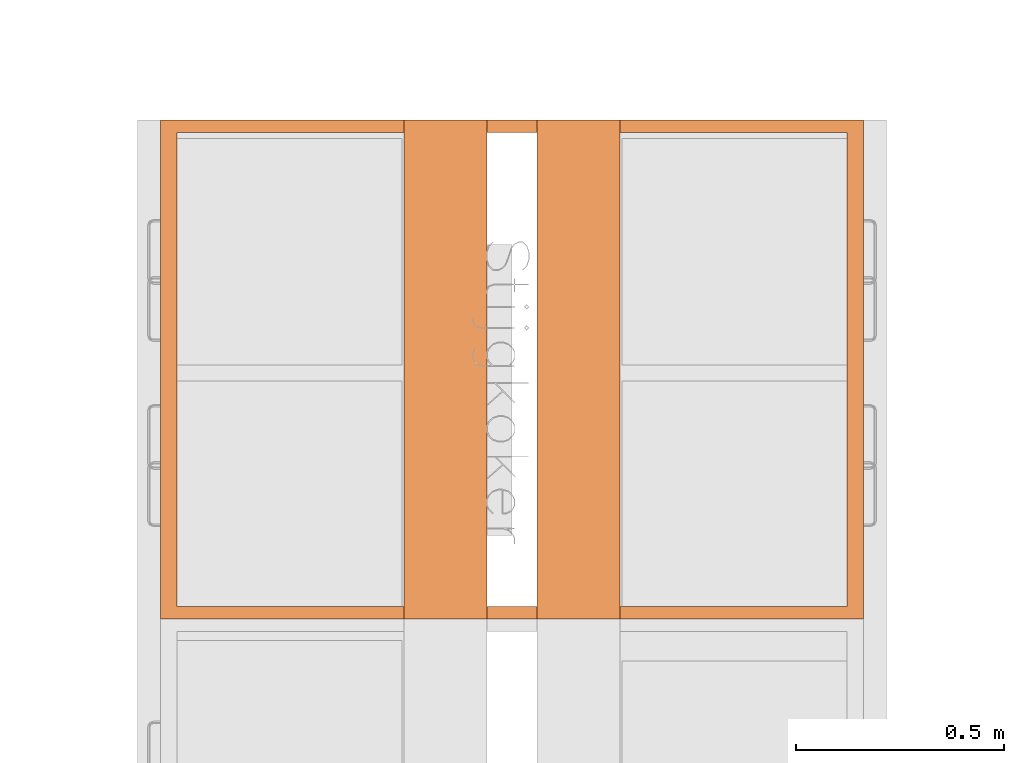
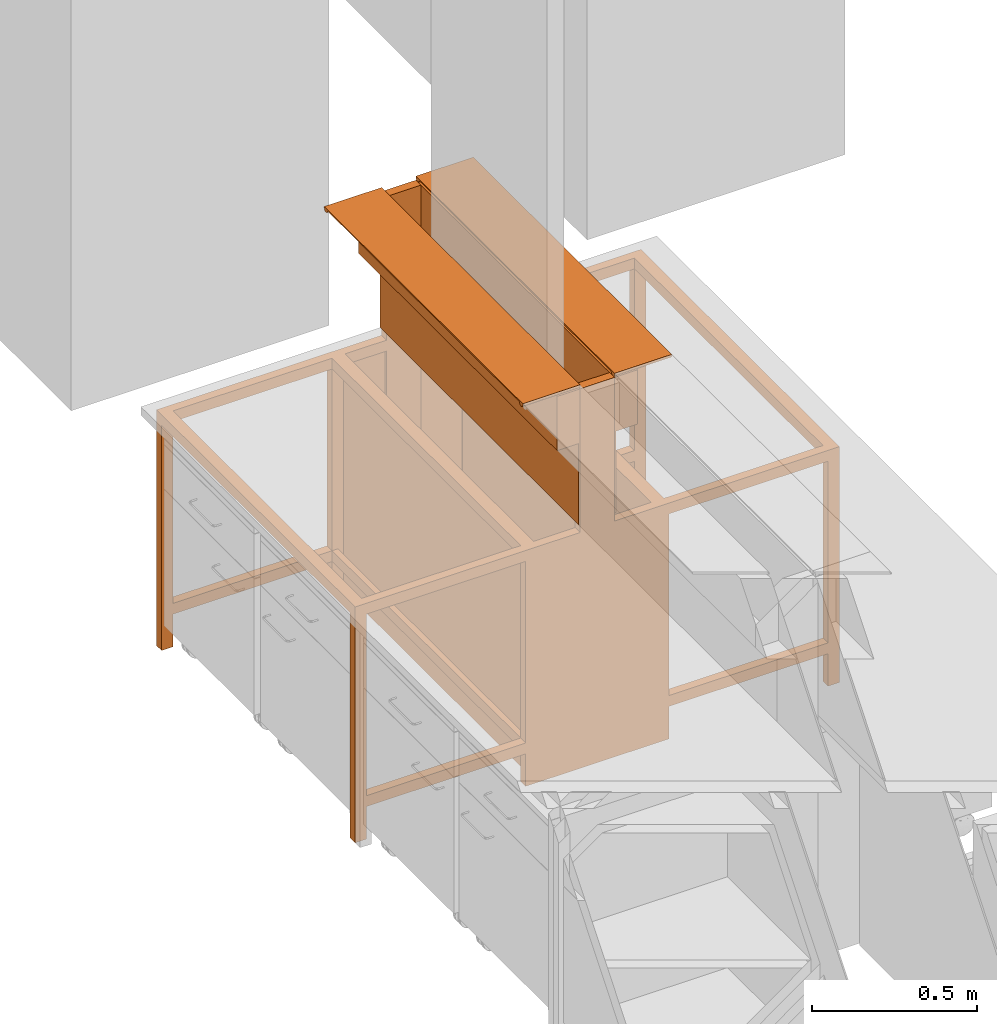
# One storey, part 20 of 43: 3 proxies.
"""IFC2X3 building model written with IfcOpenShell, lengths in metres."""

import ifcopenshell
import ifcopenshell.guid

model = None  # the IFC model being written
_history = None  # IfcOwnerHistory: only IFC2X3 demands one
_inside = {}  # id of a spatial element -> (the spatial element, [elements in it])
_under = {}  # id of a project, library or spatial element -> (it, [spatial elements below it])
_declared = {}  # id of a project -> (the project, [libraries it declares])
_typed = {}  # id of a type object -> (the type object, [elements of that type])
_made_of = {}  # id of a material, layer set ... -> (it, [elements and type objects made of it])


def new_model(schema):
    """Start an empty IFC model of exactly this schema.

    Asked for "IFC4X3", IfcOpenShell would pick the latest addendum, in which some entities
    have other attributes; the version numbers below select the first issue.
    IFC2X3 requires an IfcOwnerHistory on every rooted entity: one is made here for all.
    """
    global model, _history
    if schema == "IFC4X3":
        model = ifcopenshell.file(schema_version=(4, 3, 0, 0))
    else:
        model = ifcopenshell.file(schema=schema)
    _inside.clear()
    _under.clear()
    _declared.clear()
    _typed.clear()
    _made_of.clear()
    _history = None
    if model.schema == "IFC2X3":
        org = make("IfcOrganization", Name="unknown")
        user = make(
            "IfcPersonAndOrganization",
            ThePerson=make("IfcPerson", FamilyName="unknown"),
            TheOrganization=org,
        )
        app = make(
            "IfcApplication",
            ApplicationDeveloper=org,
            Version="unknown",
            ApplicationFullName="unknown",
            ApplicationIdentifier="unknown",
        )
        _history = make(
            "IfcOwnerHistory",
            OwningUser=user,
            OwningApplication=app,
            ChangeAction="ADDED",
            CreationDate=0,
        )
    return model


def make(cls, **values):
    """One entity of the class cls with the attributes given. An attribute that is None is left unset."""
    return model.create_entity(
        cls, **{name: value for name, value in values.items() if value is not None}
    )


def entity(cls, *values):
    """Any entity or typed value of the class cls, its attributes in the order of the schema. None: left unset."""
    e = model.create_entity(cls)
    for i, value in enumerate(values):
        if value is not None:
            e[i] = value
    return e


def rooted(cls, **values):
    """An entity with a GlobalId (a new one), such as an element, a storey or a relation."""
    return make(cls, GlobalId=ifcopenshell.guid.new(), OwnerHistory=_history, **values)


def si_unit(unit_type, name, prefix=None):
    """IfcSIUnit, for example si_unit("LENGTHUNIT", "METRE", prefix="MILLI")."""
    return make("IfcSIUnit", UnitType=unit_type, Prefix=prefix, Name=name)


def converted_unit(unit_type, name, factor, base, dimensions=None, offset=None):
    """IfcConversionBasedUnit, such as the inch: factor (a typed value) times the base unit."""
    return make(
        "IfcConversionBasedUnit"
        if offset is None
        else "IfcConversionBasedUnitWithOffset",
        ConversionOffset=offset,
        Dimensions=None
        if dimensions is None
        else entity("IfcDimensionalExponents", *dimensions),
        UnitType=unit_type,
        Name=name,
        ConversionFactor=make(
            "IfcMeasureWithUnit", ValueComponent=factor, UnitComponent=base
        ),
    )


def derived_unit(unit_type, elements):
    """IfcDerivedUnit: a product of units, each with its exponent."""
    return make(
        "IfcDerivedUnit",
        Elements=[
            make("IfcDerivedUnitElement", Unit=unit, Exponent=power)
            for unit, power in elements
        ],
        UnitType=unit_type,
    )


def assignment(units):
    """IfcUnitAssignment: the units of a project."""
    return None if units is None else make("IfcUnitAssignment", Units=units)


def point(xyz):
    """IfcCartesianPoint."""
    return None if xyz is None else make("IfcCartesianPoint", Coordinates=xyz)


def direction(xyz):
    """IfcDirection."""
    return None if xyz is None else make("IfcDirection", DirectionRatios=xyz)


def frame(location, z_axis=None, x_axis=None):
    """IfcAxis2Placement3D, a coordinate frame: its origin and axes. An axis left out is left unset."""
    return make(
        "IfcAxis2Placement3D",
        Location=point(location),
        Axis=direction(z_axis),
        RefDirection=direction(x_axis),
    )


def frame_2d(location, x_axis=None):
    """IfcAxis2Placement2D, a coordinate frame in the plane: its origin and x axis."""
    return make(
        "IfcAxis2Placement2D", Location=point(location), RefDirection=direction(x_axis)
    )


def origin():
    """The frame at (0, 0, 0) with its axes left unset."""
    return frame((0.0, 0.0, 0.0))


def origin_2d_with_axis():
    """The frame at (0, 0) in the plane with the x axis (1, 0) written out."""
    return frame_2d((0.0, 0.0), x_axis=(1.0, 0.0))


def place(relative_to, where):
    """IfcLocalPlacement: puts the frame where relative to a parent placement (None: the world)."""
    return make(
        "IfcLocalPlacement", PlacementRelTo=relative_to, RelativePlacement=where
    )


def context(
    kind, dimensions, precision=None, world=None, true_north=None, identifier=None
):
    """IfcGeometricRepresentationContext, for example the 3D "Model" context."""
    return make(
        "IfcGeometricRepresentationContext",
        ContextIdentifier=identifier,
        ContextType=kind,
        CoordinateSpaceDimension=dimensions,
        Precision=precision,
        WorldCoordinateSystem=world,
        TrueNorth=true_north,
    )


def subcontext(parent, identifier, kind, view, scale=None):
    """IfcGeometricRepresentationSubContext, for example "Body" below "Model"."""
    return make(
        "IfcGeometricRepresentationSubContext",
        ContextIdentifier=identifier,
        ContextType=kind,
        ParentContext=parent,
        TargetScale=scale,
        TargetView=view,
    )


def project(units=None, contexts=None):
    """IfcProject with its units and contexts."""
    return rooted(
        "IfcProject",
        Name="project",
        RepresentationContexts=contexts,
        UnitsInContext=assignment(units),
    )


def spatial(cls, under=None, at=None, **own):
    """A site, building, storey or space (cls), placed at a placement, below another one or the project."""
    s = rooted(cls, ObjectPlacement=at, **own)
    if under is not None:
        _under.setdefault(under.id(), (under, []))[1].append(s)
    return s


def polyline(points):
    """IfcPolyline through the points."""
    return make("IfcPolyline", Points=[point(p) for p in points])


def circle_curve(where, radius):
    """IfcCircle in the frame where."""
    return make("IfcCircle", Position=where, Radius=radius)


def parameter(value):
    """IfcParameterValue: where a trimmed curve begins or ends, as a parameter of its basis curve."""
    return model.create_entity("IfcParameterValue", value)


def trimmed(basis, trim1, trim2, sense, master):
    """IfcTrimmedCurve: the piece of a basis curve between two trims."""
    return make(
        "IfcTrimmedCurve",
        BasisCurve=basis,
        Trim1=trim1,
        Trim2=trim2,
        SenseAgreement=sense,
        MasterRepresentation=master,
    )


def segment(curve, same_sense, transition):
    """IfcCompositeCurveSegment."""
    return make(
        "IfcCompositeCurveSegment",
        Transition=transition,
        SameSense=same_sense,
        ParentCurve=curve,
    )


def composite_curve(segments, self_intersect=None):
    """IfcCompositeCurve: segments joined end to end."""
    return make("IfcCompositeCurve", Segments=segments, SelfIntersect=self_intersect)


def profile(cls, at=None, kind="AREA", **sizes):
    """A parametric profile (cls). Its sizes go by their IFC names, for example OverallWidth=200.0."""
    return make(cls, ProfileType=kind, Position=at, **sizes)


def rectangle(**sizes):
    """IfcRectangleProfileDef."""
    return profile("IfcRectangleProfileDef", **sizes)


def outline(outer, holes=None, kind="AREA"):
    """IfcArbitraryClosedProfileDef: a profile drawn as a closed curve; with holes, ...WithVoids."""
    if holes is None:
        return make("IfcArbitraryClosedProfileDef", ProfileType=kind, OuterCurve=outer)
    return make(
        "IfcArbitraryProfileDefWithVoids",
        ProfileType=kind,
        OuterCurve=outer,
        InnerCurves=holes,
    )


def extrude(swept, where, along, depth):
    """IfcExtrudedAreaSolid: the profile swept, set in the frame where, extruded along a direction by depth."""
    return make(
        "IfcExtrudedAreaSolid",
        SweptArea=swept,
        Position=where,
        ExtrudedDirection=direction(along),
        Depth=depth,
    )


def faces_of(points, faces, orient=None, outer=None):
    """IfcFace entities. A face is a list of loops; a loop is a list of indices into points, from 0.

    orient and outer hold one flag for each loop. By default every Orientation is true, the
    first loop of a face is its IfcFaceOuterBound and the others are IfcFaceBound.
    """
    made = []
    for i, loops in enumerate(faces):
        bounds = []
        for j, loop in enumerate(loops):
            is_outer = j == 0 if outer is None else outer[i][j]
            bounds.append(
                make(
                    "IfcFaceOuterBound" if is_outer else "IfcFaceBound",
                    Bound=make("IfcPolyLoop", Polygon=[points[k] for k in loop]),
                    Orientation=True if orient is None else orient[i][j],
                )
            )
        made.append(make("IfcFace", Bounds=bounds))
    return made


def faceted_brep(points, faces, orient=None, outer=None, voids=None):
    """IfcFacetedBrep: a solid bounded by flat faces; with voids (closed shells), ...WithVoids."""
    shared = [point(p) for p in points]
    hull = make("IfcClosedShell", CfsFaces=faces_of(shared, faces, orient, outer))
    if voids is None:
        return make("IfcFacetedBrep", Outer=hull)
    return make(
        "IfcFacetedBrepWithVoids",
        Outer=hull,
        Voids=[
            make(cls, CfsFaces=faces_of(shared, fs, o, b)) for cls, fs, o, b in voids
        ],
    )


def shape(context_of_items, identifier, shape_type, items):
    """IfcShapeRepresentation: the items that make up one representation, for example the "Body"."""
    return make(
        "IfcShapeRepresentation",
        ContextOfItems=context_of_items,
        RepresentationIdentifier=identifier,
        RepresentationType=shape_type,
        Items=items,
    )


def source(mapping_origin, context_of_items, identifier, shape_type, items):
    """IfcRepresentationMap: a shape defined once, which mapped items show again and again."""
    return make(
        "IfcRepresentationMap",
        MappingOrigin=mapping_origin,
        MappedRepresentation=shape(context_of_items, identifier, shape_type, items),
    )


def transform(
    local_origin,
    x_axis=None,
    y_axis=None,
    z_axis=None,
    scale=None,
    scale2=None,
    scale3=None,
    uniform=True,
):
    """IfcCartesianTransformationOperator3D, or its non-uniform kind. x_axis, y_axis, z_axis: its Axis1, 2, 3."""
    if uniform:
        return make(
            "IfcCartesianTransformationOperator3D",
            Axis1=direction(x_axis),
            Axis2=direction(y_axis),
            LocalOrigin=point(local_origin),
            Scale=scale,
            Axis3=direction(z_axis),
        )
    return make(
        "IfcCartesianTransformationOperator3DnonUniform",
        Axis1=direction(x_axis),
        Axis2=direction(y_axis),
        LocalOrigin=point(local_origin),
        Scale=scale,
        Axis3=direction(z_axis),
        Scale2=scale2,
        Scale3=scale3,
    )


def mapped(mapping_source, mapping_target):
    """IfcMappedItem: shows the shape of a source again, moved by a transform."""
    return make(
        "IfcMappedItem", MappingSource=mapping_source, MappingTarget=mapping_target
    )


def material(Name=None, Category=None):
    """IfcMaterial."""
    return make("IfcMaterial", Name=Name, Category=Category)


def material_list(materials):
    """IfcMaterialList."""
    return make("IfcMaterialList", Materials=materials)


def made_of(thing, what):
    """Note that an element or type object is made of a material, layer set ...; save() writes the relation."""
    if what is not None:
        _made_of.setdefault(what.id(), (what, []))[1].append(thing)
    return thing


def type_object(cls, material=None, **own):
    """A type object (cls), such as IfcWallType, which elements share."""
    return made_of(rooted(cls, **own), material)


def type_shapes(of_type, sources):
    """Give a type object the sources (RepresentationMaps) that its elements show as mapped items."""
    of_type.RepresentationMaps = sources


def element(
    cls,
    number,
    at=None,
    inside=None,
    cuts=None,
    type_object=None,
    material=None,
    context=None,
    identifier="Body",
    shape_type=None,
    held_by="IfcProductDefinitionShape",
    body=None,
    shapes=None,
    **own,
):
    """One element of the class cls, such as IfcWall. Its Tag is "e" and its number.

    at: its placement. inside: the storey or other place that contains it. cuts: it is an
    opening in that element (IfcRelVoidsElement). A single representation is given by context,
    identifier, shape_type and body (its items); several are given by shapes. held_by: the class
    of the entity that holds the representations. save() writes the other relations.
    """
    e = rooted(cls, Tag="e%d" % number, ObjectPlacement=at, **own)
    if body is not None:
        shapes = [shape(context, identifier, shape_type, body)]
    if shapes is not None:
        e.Representation = make(held_by, Representations=shapes)
    if inside is not None:
        _inside.setdefault(inside.id(), (inside, []))[1].append(e)
    if cuts is not None:
        rooted(
            "IfcRelVoidsElement", RelatingBuildingElement=cuts, RelatedOpeningElement=e
        )
    if type_object is not None:
        _typed.setdefault(type_object.id(), (type_object, []))[1].append(e)
    return made_of(e, material)


def aggregate(whole, parts):
    """IfcRelAggregates: a whole, such as a stair, and the parts it consists of."""
    return rooted("IfcRelAggregates", RelatingObject=whole, RelatedObjects=parts)


def save(model, path):
    """Write the relations noted so far, then the file.

    IfcRelAggregates (storeys below a building ...), IfcRelContainedInSpatialStructure (elements
    in a storey), IfcRelDefinesByType, IfcRelAssociatesMaterial and IfcRelDeclares: one each for
    every whole, place, type object, material and project.
    """
    for whole, parts in _under.values():
        aggregate(whole, parts)
    for where, things in _inside.values():
        rooted(
            "IfcRelContainedInSpatialStructure",
            RelatedElements=things,
            RelatingStructure=where,
        )
    for kind, things in _typed.values():
        rooted("IfcRelDefinesByType", RelatedObjects=things, RelatingType=kind)
    for what, things in _made_of.values():
        rooted("IfcRelAssociatesMaterial", RelatedObjects=things, RelatingMaterial=what)
    for by, libraries in _declared.values():
        rooted("IfcRelDeclares", RelatingContext=by, RelatedDefinitions=libraries)
    model.write(path)


model = new_model("IFC2X3")

# Units and contexts
model_context = context("Model", 3, precision=1e-05, world=origin(), true_north=direction((6.12303176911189e-17, 1.0)))
body_context = subcontext(model_context, "Body", "Model", "MODEL_VIEW")
ifc_project = project(units=[si_unit("LENGTHUNIT", "METRE"), si_unit("AREAUNIT", "SQUARE_METRE"), si_unit("VOLUMEUNIT", "CUBIC_METRE"), converted_unit("PLANEANGLEUNIT", "DEGREE", entity("IfcRatioMeasure", 0.0174532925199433), si_unit("PLANEANGLEUNIT", "RADIAN"), dimensions=[0, 0, 0, 0, 0, 0, 0]), si_unit("MASSUNIT", "GRAM", prefix="KILO"), derived_unit("MASSDENSITYUNIT", [(si_unit("MASSUNIT", "GRAM", prefix="KILO"), 1), (si_unit("LENGTHUNIT", "METRE"), -3)]), derived_unit("MOMENTOFINERTIAUNIT", [(si_unit("LENGTHUNIT", "METRE"), 4)]), si_unit("TIMEUNIT", "SECOND"), si_unit("FREQUENCYUNIT", "HERTZ"), si_unit("THERMODYNAMICTEMPERATUREUNIT", "DEGREE_CELSIUS"), derived_unit("THERMALTRANSMITTANCEUNIT", [(si_unit("MASSUNIT", "GRAM", prefix="KILO"), 1), (si_unit("THERMODYNAMICTEMPERATUREUNIT", "KELVIN"), -1), (si_unit("TIMEUNIT", "SECOND"), -3)]), derived_unit("VOLUMETRICFLOWRATEUNIT", [(si_unit("LENGTHUNIT", "METRE"), 3), (si_unit("TIMEUNIT", "SECOND"), -1)]), si_unit("ELECTRICCURRENTUNIT", "AMPERE"), si_unit("ELECTRICVOLTAGEUNIT", "VOLT"), si_unit("POWERUNIT", "WATT"), si_unit("FORCEUNIT", "NEWTON", prefix="KILO"), si_unit("ILLUMINANCEUNIT", "LUX"), si_unit("LUMINOUSFLUXUNIT", "LUMEN"), si_unit("LUMINOUSINTENSITYUNIT", "CANDELA"), derived_unit("USERDEFINED", [(si_unit("MASSUNIT", "GRAM", prefix="KILO"), -1), (si_unit("LENGTHUNIT", "METRE"), -2), (si_unit("TIMEUNIT", "SECOND"), 3), (si_unit("LUMINOUSFLUXUNIT", "LUMEN"), 1)]), derived_unit("LINEARVELOCITYUNIT", [(si_unit("LENGTHUNIT", "METRE"), 1), (si_unit("TIMEUNIT", "SECOND"), -1)]), si_unit("PRESSUREUNIT", "PASCAL"), derived_unit("USERDEFINED", [(si_unit("LENGTHUNIT", "METRE"), -2), (si_unit("MASSUNIT", "GRAM", prefix="KILO"), 1), (si_unit("TIMEUNIT", "SECOND"), -2)]), derived_unit("LINEARFORCEUNIT", [(si_unit("MASSUNIT", "GRAM", prefix="KILO"), 1), (si_unit("LENGTHUNIT", "METRE"), 1), (si_unit("TIMEUNIT", "SECOND"), -2), (si_unit("LENGTHUNIT", "METRE"), -1)]), derived_unit("PLANARFORCEUNIT", [(si_unit("MASSUNIT", "GRAM", prefix="KILO"), 1), (si_unit("LENGTHUNIT", "METRE"), 1), (si_unit("TIMEUNIT", "SECOND"), -2), (si_unit("LENGTHUNIT", "METRE"), -2)])], contexts=[model_context])

# Site, building, storey
site_placement = place(None, origin())
site = spatial("IfcSite", under=ifc_project, at=site_placement, Name="Default", CompositionType="ELEMENT")
building_placement = place(site_placement, origin())
building = spatial("IfcBuilding", under=site, at=building_placement, CompositionType="ELEMENT")
storey_placement = place(building_placement, frame((0.0, 0.0, 3.0)))
storey = spatial("IfcBuildingStorey", under=building, at=storey_placement, Name="01 OG", CompositionType="ELEMENT", Elevation=3.0)

# Proxies
ifc_material_1 = material(Name="dh_Weiß")
ifc_material_2 = material(Name="dh_Glas WHS")
ifc_material_3 = material(Name="dh_Blau")
ifc_material_list_1 = material_list([ifc_material_1, ifc_material_2, ifc_material_3])
ifc_material_list_2 = material_list([ifc_material_2, ifc_material_3, ifc_material_1])
building_element_proxy_type_1 = type_object("IfcBuildingElementProxyType", Name="dh_Medienwand WHA:120 Stehtisch", PredefinedType="NOTDEFINED", material=ifc_material_list_2)
shared_shape_1 = source(origin(), body_context, "Body", "SweptSolid", [
    extrude(outline(composite_curve([segment(trimmed(circle_curve(frame_2d((0.0, 0.0), x_axis=(-1.0, 0.0)), 0.01), [parameter(0.0)], [parameter(180.0)], True, "PARAMETER"), True, "CONTINUOUS"), segment(polyline([(0.01, 0.0), (-0.01, 0.0)]), True, "CONTINUOUS")], self_intersect=False)), frame((-0.589999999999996, 0.1, 1.40999999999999), z_axis=(0.0, -1.0, 0.0), x_axis=(1.0, 0.0, 0.0)), (0.0, 0.0, -1.0), 0.2),
    extrude(outline(composite_curve([segment(trimmed(circle_curve(origin_2d_with_axis(), 0.00999999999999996), [parameter(0.0)], [parameter(180.0)], True, "PARAMETER"), True, "CONTINUOUS"), segment(polyline([(-0.0099999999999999, 0.0), (0.0099999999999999, 0.0)]), True, "CONTINUOUS")], self_intersect=False)), frame((0.590000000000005, 0.1, 1.40999999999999), z_axis=(0.0, 1.0, 0.0), x_axis=(1.0, 0.0, 0.0)), (0.0, 0.0, 1.0), 0.2),
    extrude(rectangle(XDim=1.2, YDim=0.2, at=origin_2d_with_axis()), frame((0.0, 0.2, 1.40999999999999), z_axis=(0.0, 0.0, 1.0), x_axis=(-1.0, 0.0, 0.0)), (0.0, 0.0, 1.0), 0.00499999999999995),
    extrude(rectangle(XDim=0.00500000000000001, YDim=1.2, at=frame_2d((-3.38271077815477e-17, 0.0), x_axis=(1.0, 0.0))), frame((0.0, 0.2975, 0.900000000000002), z_axis=(0.0, 0.0, 1.0), x_axis=(0.0, 1.0, 0.0)), (0.0, 0.0, 1.0), 0.299999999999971),
    extrude(rectangle(XDim=1.2, YDim=0.08, at=frame_2d((0.0, 3.46944695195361e-17), x_axis=(1.0, 0.0))), frame((0.0, 0.26, 1.20000000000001), z_axis=(0.0, 0.0, 1.0), x_axis=(-1.0, 0.0, 0.0)), (0.0, 0.0, 1.0), 0.199999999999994),
])
type_shapes(building_element_proxy_type_1, [shared_shape_1])
proxy_1_placement = place(storey_placement, frame((13.24, 15.7240000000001, 0.7), z_axis=(0.0, 0.0, 1.0), x_axis=(0.0, -1.0, 0.0)))
element("IfcBuildingElementProxy", 1, at=proxy_1_placement, inside=storey, type_object=building_element_proxy_type_1, material=ifc_material_list_1, Name="dh_Medienwand WHA:120 Stehtisch", ObjectType="dh_Medienwand WHA:120 Stehtisch", context=body_context, shape_type="MappedRepresentation", body=[
    mapped(shared_shape_1, transform((0.0, 0.0, 0.0), scale=1.0)),
])
ifc_material_list_3 = material_list([ifc_material_1, ifc_material_2, ifc_material_3])
proxy_2_placement = place(storey_placement, frame((13.96, 15.7240000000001, 0.7), z_axis=(0.0, 0.0, 1.0), x_axis=(0.0, 1.0, 0.0)))
element("IfcBuildingElementProxy", 2, at=proxy_2_placement, inside=storey, type_object=building_element_proxy_type_1, material=ifc_material_list_3, Name="dh_Medienwand WHA:120 Stehtisch", ObjectType="dh_Medienwand WHA:120 Stehtisch", context=body_context, shape_type="MappedRepresentation", body=[
    mapped(shared_shape_1, transform((0.0, 0.0, 0.0), scale=1.0)),
])
ifc_material_4 = material(Name="dh_EZ blau")
ifc_material_5 = material(Name="Stopper")
ifc_material_list_4 = material_list([ifc_material_4, ifc_material_5, ifc_material_1])
ifc_material_list_5 = material_list([ifc_material_2, ifc_material_4])
building_element_proxy_type_2 = type_object("IfcBuildingElementProxyType", Name="dh_Energiezelle-Doppel ST:DEZ_ST120 ohne WHS WHA", PredefinedType="NOTDEFINED", material=ifc_material_list_5)
shared_shape_2 = source(origin(), body_context, "Body", "Brep", [
    faceted_brep([(0.6, 0.119999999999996, 1.4), (0.57, 0.119999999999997, 1.4), (0.57, 0.0, 1.4), (0.6, 0.0, 1.4), (0.57, 0.119999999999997, 0.0), (0.6, 0.119999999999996, 0.0), (0.6, 0.0, 0.0), (0.57, 0.0, 0.0)], [[[0, 1, 2, 3]], [[4, 5, 6, 7]], [[2, 1, 4, 7]], [[1, 0, 5, 4]], [[0, 3, 6, 5]], [[3, 2, 7, 6]]]),
    faceted_brep([(-0.6, 0.0, 1.4), (-0.599999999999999, 0.120000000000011, 1.4), (-0.599999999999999, 0.120000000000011, 0.0), (-0.6, 0.0, 0.0), (-0.569999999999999, 0.120000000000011, 1.4), (-0.569999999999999, 0.120000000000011, 0.0), (-0.570000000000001, 0.0, 1.4), (-0.57, 0.0, 0.0)], [[[0, 1, 2, 3]], [[1, 4, 5, 2]], [[4, 6, 7, 5]], [[6, 0, 3, 7]], [[2, 5, 7, 3]], [[4, 1, 0, 6]]]),
    faceted_brep([(-0.599999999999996, 0.120000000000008, 0.870000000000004), (-0.570000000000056, 0.120000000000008, 0.870000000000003), (-0.570000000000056, 0.270000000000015, 0.870000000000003), (0.569999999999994, 0.270000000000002, 0.87), (0.569999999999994, 0.12, 0.87), (0.600000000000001, 0.12, 0.87), (0.600000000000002, 0.904999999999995, 0.87), (-0.599999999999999, 0.905000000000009, 0.870000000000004), (0.569999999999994, 0.31, 0.87), (-0.570000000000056, 0.310000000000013, 0.870000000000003), (-0.570000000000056, 0.865000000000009, 0.870000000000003), (0.569999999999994, 0.864999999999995, 0.87), (0.569999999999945, 0.865000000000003, 0.83), (-0.570000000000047, 0.865000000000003, 0.830000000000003), (-0.570000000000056, 0.905000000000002, 0.830000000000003), (0.569999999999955, 0.905000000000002, 0.83), (-0.570000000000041, 0.270000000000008, 0.830000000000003), (0.569999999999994, 0.270000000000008, 0.83), (0.56999999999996, 0.31000000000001, 0.83), (-0.570000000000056, 0.31000000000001, 0.830000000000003), (-0.570000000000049, 0.905000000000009, 0.0100000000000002), (-0.600000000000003, 0.905000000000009, 0.0100000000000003), (0.599999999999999, 0.904999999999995, 0.00999999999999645), (0.569999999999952, 0.904999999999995, 0.00999999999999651), (0.599999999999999, 0.864999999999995, 0.00999999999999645), (0.569999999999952, 0.864999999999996, 0.00999999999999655), (-0.600000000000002, 0.865000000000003, 0.0100000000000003), (-0.599999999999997, 0.865000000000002, 0.830000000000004), (-0.600000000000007, 0.310000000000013, 0.830000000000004), (-0.60000000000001, 0.310000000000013, 0.0100000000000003), (-0.60000000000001, 0.270000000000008, 0.0100000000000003), (-0.600000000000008, 0.270000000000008, 0.830000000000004), (-0.599999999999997, 0.120000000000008, 0.830000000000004), (-0.570000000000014, 0.270000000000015, 0.0100000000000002), (-0.570000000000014, 0.31000000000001, 0.0100000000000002), (0.569999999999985, 0.31, 0.00999999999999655), (0.569999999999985, 0.270000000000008, 0.00999999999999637), (0.600000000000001, 0.12, 0.83), (0.599999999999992, 0.270000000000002, 0.83), (0.599999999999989, 0.270000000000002, 0.00999999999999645), (0.59999999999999, 0.31000000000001, 0.00999999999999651), (0.599999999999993, 0.31000000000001, 0.83), (0.599999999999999, 0.864999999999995, 0.83), (-0.570000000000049, 0.865000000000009, 0.0100000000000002), (-0.570000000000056, 0.120000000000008, 0.830000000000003), (0.569999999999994, 0.12, 0.83)], [[[0, 1, 2, 3, 4, 5, 6, 7], [8, 9, 10, 11]], [[12, 13, 14, 15]], [[16, 17, 3, 2]], [[18, 19, 9, 8]], [[13, 12, 11, 10]], [[15, 14, 20, 21, 7, 6, 22, 23]], [[24, 25, 23, 22]], [[0, 7, 21, 26, 27, 28, 29, 30, 31, 32]], [[33, 34, 19, 16]], [[35, 36, 17, 18]], [[6, 5, 37, 38, 39, 40, 41, 42, 24, 22]], [[43, 20, 14, 13]], [[23, 25, 12, 15]], [[44, 32, 31, 16]], [[1, 0, 32, 44]], [[10, 9, 19, 13]], [[8, 11, 12, 18]], [[5, 4, 45, 37]], [[45, 4, 3, 17]], [[1, 44, 16, 2]], [[37, 45, 17, 38]], [[18, 12, 42, 41]], [[13, 19, 28, 27]], [[43, 26, 21, 20]], [[39, 36, 35, 40]], [[33, 30, 29, 34]], [[26, 43, 13, 27]], [[25, 24, 42, 12]], [[40, 35, 18, 41]], [[34, 29, 28, 19]], [[30, 33, 16, 31]], [[36, 39, 38, 17]], [[17, 16, 19, 18]]]),
    faceted_brep([(-0.599999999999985, 0.270000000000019, 0.01), (-0.570000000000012, 0.270000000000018, 0.01), (-0.570000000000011, 0.310000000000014, 0.01), (-0.599999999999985, 0.310000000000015, 0.01), (-0.599999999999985, 0.310000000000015, 0.0), (-0.599999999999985, 0.270000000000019, 0.0), (-0.570000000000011, 0.310000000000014, 0.0), (-0.570000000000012, 0.270000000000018, 0.0)], [[[0, 1, 2, 3]], [[0, 3, 4, 5]], [[3, 2, 6, 4]], [[2, 1, 7, 6]], [[1, 0, 5, 7]], [[5, 4, 6, 7]]]),
    faceted_brep([(0.56999999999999, 0.270000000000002, 0.0), (0.569999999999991, 0.31, 0.0), (0.600000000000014, 0.31, 0.0), (0.600000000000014, 0.270000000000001, 0.0), (0.56999999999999, 0.270000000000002, 0.01), (0.569999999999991, 0.31, 0.01), (0.600000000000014, 0.31, 0.01), (0.600000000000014, 0.270000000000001, 0.01)], [[[0, 1, 2, 3]], [[4, 5, 1, 0]], [[5, 6, 2, 1]], [[6, 7, 3, 2]], [[7, 4, 0, 3]], [[4, 7, 6, 5]]]),
    faceted_brep([(0.570000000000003, 0.864999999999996, 0.01), (0.570000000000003, 0.904999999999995, 0.01), (0.570000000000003, 0.904999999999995, 0.0), (0.570000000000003, 0.864999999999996, 0.0), (0.600000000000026, 0.904999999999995, 0.01), (0.600000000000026, 0.904999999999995, 0.0), (0.600000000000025, 0.864999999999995, 0.01), (0.600000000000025, 0.864999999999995, 0.0)], [[[0, 1, 2, 3]], [[1, 4, 5, 2]], [[4, 6, 7, 5]], [[6, 0, 3, 7]], [[3, 2, 5, 7]], [[0, 6, 4, 1]]]),
    faceted_brep([(-0.599999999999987, 0.865000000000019, 0.01), (-0.599999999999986, 0.905000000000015, 0.01), (-0.599999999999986, 0.905000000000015, 0.0), (-0.599999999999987, 0.865000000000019, 0.0), (-0.569999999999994, 0.905000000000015, 0.01), (-0.569999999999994, 0.905000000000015, 0.0), (-0.569999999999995, 0.865000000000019, 0.01), (-0.569999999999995, 0.865000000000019, 0.0)], [[[0, 1, 2, 3]], [[1, 4, 5, 2]], [[4, 6, 7, 5]], [[6, 0, 3, 7]], [[3, 2, 5, 7]], [[0, 6, 4, 1]]]),
    faceted_brep([(0.569999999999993, 0.27, 0.870000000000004), (-0.570000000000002, 0.270000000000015, 0.870000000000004), (-0.570000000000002, 0.265000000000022, 0.870000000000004), (0.569999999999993, 0.265000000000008, 0.870000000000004), (0.569999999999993, 0.27, 0.0), (0.569999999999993, 0.265000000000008, 0.0), (-0.570000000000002, 0.265000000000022, 0.0), (-0.570000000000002, 0.270000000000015, 0.0)], [[[0, 1, 2, 3]], [[4, 5, 6, 7]], [[1, 0, 4, 7]], [[2, 1, 7, 6]], [[3, 2, 6, 5]], [[0, 3, 5, 4]]]),
    faceted_brep([(-0.6, 0.120000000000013, 0.830000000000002), (-0.58, 0.120000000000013, 0.830000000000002), (-0.579999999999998, 0.270000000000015, 0.830000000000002), (-0.599999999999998, 0.270000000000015, 0.830000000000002), (-0.599999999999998, 0.270000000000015, 0.0), (-0.6, 0.120000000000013, 0.0), (-0.579999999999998, 0.270000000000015, 0.0), (-0.58, 0.120000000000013, 0.0)], [[[0, 1, 2, 3]], [[0, 3, 4, 5]], [[3, 2, 6, 4]], [[2, 1, 7, 6]], [[1, 0, 5, 7]], [[5, 4, 6, 7]]]),
    faceted_brep([(0.58, 0.119999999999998, 0.0), (0.580000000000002, 0.270000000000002, 0.0), (0.600000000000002, 0.270000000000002, 0.0), (0.6, 0.119999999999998, 0.0), (0.58, 0.119999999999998, 0.830000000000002), (0.580000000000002, 0.270000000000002, 0.830000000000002), (0.600000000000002, 0.270000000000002, 0.830000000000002), (0.6, 0.119999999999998, 0.830000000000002)], [[[0, 1, 2, 3]], [[4, 5, 1, 0]], [[5, 6, 2, 1]], [[6, 7, 3, 2]], [[7, 4, 0, 3]], [[4, 7, 6, 5]]]),
    faceted_brep([(0.569999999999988, 0.290000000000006, 0.16), (0.569999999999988, 0.310000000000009, 0.16), (-0.570000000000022, 0.310000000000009, 0.160000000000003), (-0.570000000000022, 0.290000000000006, 0.160000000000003), (0.569999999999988, 0.290000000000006, 0.12), (-0.570000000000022, 0.290000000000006, 0.120000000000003), (-0.570000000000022, 0.310000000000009, 0.120000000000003), (0.569999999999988, 0.310000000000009, 0.12)], [[[0, 1, 2, 3]], [[4, 5, 6, 7]], [[0, 3, 5, 4]], [[3, 2, 6, 5]], [[2, 1, 7, 6]], [[1, 0, 4, 7]]]),
    faceted_brep([(0.569999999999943, 0.310000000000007, 0.16), (0.599999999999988, 0.310000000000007, 0.16), (0.599999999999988, 0.865000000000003, 0.16), (0.569999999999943, 0.865000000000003, 0.16), (0.569999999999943, 0.310000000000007, 0.12), (0.569999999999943, 0.865000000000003, 0.12), (0.599999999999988, 0.865000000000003, 0.12), (0.599999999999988, 0.310000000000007, 0.12)], [[[0, 1, 2, 3]], [[4, 5, 6, 7]], [[0, 3, 5, 4]], [[3, 2, 6, 5]], [[2, 1, 7, 6]], [[1, 0, 4, 7]]]),
    faceted_brep([(-0.570000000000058, 0.310000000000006, 0.160000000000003), (-0.600000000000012, 0.310000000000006, 0.160000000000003), (-0.600000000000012, 0.310000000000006, 0.120000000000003), (-0.570000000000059, 0.310000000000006, 0.120000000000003), (-0.600000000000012, 0.865000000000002, 0.160000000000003), (-0.600000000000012, 0.865000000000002, 0.120000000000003), (-0.570000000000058, 0.865000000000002, 0.160000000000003), (-0.570000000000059, 0.865000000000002, 0.120000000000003)], [[[0, 1, 2, 3]], [[1, 4, 5, 2]], [[4, 6, 7, 5]], [[6, 0, 3, 7]], [[3, 2, 5, 7]], [[0, 6, 4, 1]]]),
    faceted_brep([(-0.599999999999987, -0.150000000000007, 0.01), (-0.599999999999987, -0.190000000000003, 0.01), (-0.570000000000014, -0.190000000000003, 0.01), (-0.570000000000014, -0.150000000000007, 0.01), (-0.599999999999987, -0.150000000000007, 0.0), (-0.599999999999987, -0.190000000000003, 0.0), (-0.570000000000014, -0.190000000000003, 0.0), (-0.570000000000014, -0.150000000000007, 0.0)], [[[0, 1, 2, 3]], [[1, 0, 4, 5]], [[2, 1, 5, 6]], [[3, 2, 6, 7]], [[0, 3, 7, 4]], [[4, 7, 6, 5]]]),
    faceted_brep([(-0.599999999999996, -0.745000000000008, 0.0), (-0.570000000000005, -0.745000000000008, 0.0), (-0.570000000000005, -0.785000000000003, 0.0), (-0.599999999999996, -0.785000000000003, 0.0), (-0.599999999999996, -0.785000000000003, 0.01), (-0.599999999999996, -0.745000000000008, 0.01), (-0.570000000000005, -0.785000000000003, 0.01), (-0.570000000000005, -0.745000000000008, 0.01)], [[[0, 1, 2, 3]], [[4, 5, 0, 3]], [[6, 4, 3, 2]], [[7, 6, 2, 1]], [[5, 7, 1, 0]], [[5, 4, 6, 7]]]),
    faceted_brep([(0.569999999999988, -0.190000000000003, 0.01), (0.569999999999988, -0.150000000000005, 0.01), (0.569999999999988, -0.150000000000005, 0.0), (0.569999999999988, -0.190000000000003, 0.0), (0.600000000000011, -0.190000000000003, 0.01), (0.600000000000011, -0.190000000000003, 0.0), (0.600000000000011, -0.150000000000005, 0.01), (0.600000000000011, -0.150000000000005, 0.0)], [[[0, 1, 2, 3]], [[4, 0, 3, 5]], [[6, 4, 5, 7]], [[1, 6, 7, 2]], [[2, 7, 5, 3]], [[1, 0, 4, 6]]]),
    faceted_brep([(0.569999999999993, -0.784999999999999, 0.01), (0.569999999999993, -0.744999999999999, 0.01), (0.569999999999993, -0.744999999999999, 0.0), (0.569999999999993, -0.784999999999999, 0.0), (0.600000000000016, -0.784999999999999, 0.01), (0.600000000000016, -0.784999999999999, 0.0), (0.600000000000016, -0.744999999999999, 0.01), (0.600000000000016, -0.744999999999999, 0.0)], [[[0, 1, 2, 3]], [[4, 0, 3, 5]], [[6, 4, 5, 7]], [[1, 6, 7, 2]], [[2, 7, 5, 3]], [[1, 0, 4, 6]]]),
    faceted_brep([(0.569999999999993, -0.150000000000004, 0.870000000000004), (0.569999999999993, -0.145000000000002, 0.870000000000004), (-0.570000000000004, -0.145000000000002, 0.870000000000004), (-0.570000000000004, -0.150000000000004, 0.870000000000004), (0.569999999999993, -0.150000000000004, 0.0), (-0.570000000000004, -0.150000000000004, 0.0), (-0.570000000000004, -0.145000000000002, 0.0), (0.569999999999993, -0.145000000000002, 0.0)], [[[0, 1, 2, 3]], [[4, 5, 6, 7]], [[0, 3, 5, 4]], [[3, 2, 6, 5]], [[2, 1, 7, 6]], [[1, 0, 4, 7]]]),
    faceted_brep([(-0.6, 0.0, 0.830000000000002), (-0.6, -0.150000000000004, 0.830000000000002), (-0.58, -0.150000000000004, 0.830000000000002), (-0.58, 0.0, 0.830000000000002), (-0.6, 0.0, 0.0), (-0.58, 0.0, 0.0), (-0.58, -0.150000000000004, 0.0), (-0.6, -0.150000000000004, 0.0)], [[[0, 1, 2, 3]], [[4, 5, 6, 7]], [[1, 0, 4, 7]], [[2, 1, 7, 6]], [[3, 2, 6, 5]], [[0, 3, 5, 4]]]),
    faceted_brep([(0.58, -0.150000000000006, 0.830000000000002), (0.58, 0.0, 0.830000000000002), (0.58, 0.0, 0.0), (0.58, -0.150000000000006, 0.0), (0.6, -0.150000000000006, 0.830000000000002), (0.6, -0.150000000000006, 0.0), (0.6, 0.0, 0.830000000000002), (0.6, 0.0, 0.0)], [[[0, 1, 2, 3]], [[4, 0, 3, 5]], [[6, 4, 5, 7]], [[1, 6, 7, 2]], [[2, 7, 5, 3]], [[1, 0, 4, 6]]]),
    faceted_brep([(-0.570000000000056, 0.0, 0.870000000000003), (-0.60000000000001, 0.0, 0.870000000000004), (-0.600000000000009, -0.784999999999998, 0.870000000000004), (0.599999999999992, -0.784999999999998, 0.87), (0.59999999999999, 0.0, 0.87), (0.569999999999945, 0.0, 0.87), (0.569999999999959, -0.150000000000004, 0.87), (-0.570000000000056, -0.150000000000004, 0.870000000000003), (-0.570000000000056, -0.744999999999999, 0.870000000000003), (-0.570000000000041, -0.190000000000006, 0.870000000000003), (0.569999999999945, -0.190000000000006, 0.87), (0.569999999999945, -0.744999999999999, 0.87), (-0.60000000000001, 0.0, 0.830000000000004), (-0.570000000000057, 0.0, 0.830000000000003), (-0.570000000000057, -0.150000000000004, 0.830000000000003), (-0.60000000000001, -0.150000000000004, 0.830000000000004), (-0.600000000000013, -0.150000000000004, 0.0100000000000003), (-0.600000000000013, -0.190000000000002, 0.0100000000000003), (-0.60000000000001, -0.190000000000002, 0.830000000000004), (-0.60000000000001, -0.744999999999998, 0.830000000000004), (-0.600000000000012, -0.744999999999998, 0.0100000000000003), (-0.600000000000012, -0.784999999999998, 0.0100000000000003), (0.569999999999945, 0.0, 0.83), (0.569999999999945, -0.150000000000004, 0.83), (0.59999999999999, 0.0, 0.83), (0.599999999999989, -0.784999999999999, 0.00999999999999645), (0.599999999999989, -0.744999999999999, 0.00999999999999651), (0.59999999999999, -0.744999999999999, 0.83), (0.59999999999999, -0.190000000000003, 0.83), (0.599999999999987, -0.190000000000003, 0.00999999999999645), (0.599999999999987, -0.150000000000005, 0.00999999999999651), (0.59999999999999, -0.150000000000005, 0.83), (-0.570000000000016, -0.150000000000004, 0.0100000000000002), (-0.570000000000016, -0.190000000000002, 0.0100000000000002), (-0.570000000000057, -0.190000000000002, 0.830000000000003), (0.569999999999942, -0.150000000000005, 0.00999999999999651), (0.569999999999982, -0.190000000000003, 0.00999999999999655), (0.569999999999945, -0.190000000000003, 0.83), (-0.570000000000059, -0.744999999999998, 0.0100000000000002), (-0.570000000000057, -0.744999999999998, 0.830000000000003), (-0.570000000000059, -0.784999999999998, 0.0100000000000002), (-0.570000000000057, -0.784999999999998, 0.830000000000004), (0.569999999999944, -0.784999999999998, 0.83), (0.569999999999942, -0.784999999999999, 0.00999999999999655), (0.569999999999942, -0.744999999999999, 0.00999999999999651), (0.569999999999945, -0.744999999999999, 0.83)], [[[0, 1, 2, 3, 4, 5, 6, 7], [8, 9, 10, 11]], [[12, 13, 14, 15]], [[1, 0, 13, 12]], [[1, 12, 15, 16, 17, 18, 19, 20, 21, 2]], [[13, 0, 7, 14]], [[5, 22, 23, 6]], [[24, 4, 3, 25, 26, 27, 28, 29, 30, 31]], [[5, 4, 24, 22]], [[32, 33, 17, 16]], [[32, 16, 15, 14]], [[17, 33, 34, 18]], [[30, 35, 23, 31]], [[36, 29, 28, 37]], [[38, 20, 19, 39]], [[3, 2, 21, 40, 41, 42, 43, 25]], [[26, 44, 45, 27]], [[42, 41, 39, 45]], [[7, 6, 23, 14]], [[10, 9, 34, 37]], [[8, 11, 45, 39]], [[37, 34, 14, 23]], [[38, 40, 21, 20]], [[30, 29, 36, 35]], [[26, 25, 43, 44]], [[37, 45, 11, 10]], [[35, 36, 37, 23]], [[44, 43, 42, 45]], [[39, 34, 9, 8]], [[40, 38, 39, 41]], [[33, 32, 14, 34]], [[34, 39, 19, 18]], [[22, 24, 31, 23]], [[28, 27, 45, 37]]]),
    faceted_brep([(0.569999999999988, -0.170000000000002, 0.16), (-0.570000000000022, -0.170000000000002, 0.160000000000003), (-0.570000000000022, -0.190000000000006, 0.160000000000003), (0.569999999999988, -0.190000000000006, 0.16), (0.569999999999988, -0.170000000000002, 0.12), (0.569999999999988, -0.190000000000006, 0.12), (-0.570000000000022, -0.190000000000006, 0.120000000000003), (-0.570000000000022, -0.170000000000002, 0.120000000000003)], [[[0, 1, 2, 3]], [[4, 5, 6, 7]], [[1, 0, 4, 7]], [[2, 1, 7, 6]], [[3, 2, 6, 5]], [[0, 3, 5, 4]]]),
    faceted_brep([(0.569999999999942, -0.190000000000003, 0.16), (0.569999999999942, -0.744999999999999, 0.16), (0.599999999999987, -0.744999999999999, 0.16), (0.599999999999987, -0.190000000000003, 0.16), (0.569999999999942, -0.190000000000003, 0.12), (0.569999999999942, -0.744999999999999, 0.12), (0.599999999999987, -0.744999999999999, 0.12), (0.599999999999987, -0.190000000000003, 0.12)], [[[0, 1, 2, 3]], [[1, 0, 4, 5]], [[2, 1, 5, 6]], [[3, 2, 6, 7]], [[0, 3, 7, 4]], [[4, 7, 6, 5]]]),
    faceted_brep([(-0.570000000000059, -0.190000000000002, 0.120000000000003), (-0.570000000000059, -0.744999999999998, 0.120000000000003), (-0.600000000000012, -0.744999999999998, 0.120000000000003), (-0.600000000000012, -0.190000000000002, 0.120000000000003), (-0.600000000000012, -0.190000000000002, 0.160000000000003), (-0.570000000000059, -0.190000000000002, 0.160000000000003), (-0.600000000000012, -0.744999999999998, 0.160000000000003), (-0.570000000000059, -0.744999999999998, 0.160000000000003)], [[[0, 1, 2, 3]], [[4, 5, 0, 3]], [[6, 4, 3, 2]], [[7, 6, 2, 1]], [[5, 7, 1, 0]], [[5, 4, 6, 7]]]),
])
type_shapes(building_element_proxy_type_2, [shared_shape_2])
proxy_3_placement = place(storey_placement, frame((13.66, 15.7240000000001, 0.7), z_axis=(0.0, 0.0, 1.0), x_axis=(0.0, 1.0, 0.0)))
element("IfcBuildingElementProxy", 3, at=proxy_3_placement, inside=storey, type_object=building_element_proxy_type_2, material=ifc_material_list_4, Name="dh_Energiezelle-Doppel ST:DEZ_ST120 ohne WHS WHA", ObjectType="dh_Energiezelle-Doppel ST:DEZ_ST120 ohne WHS WHA", context=body_context, shape_type="MappedRepresentation", body=[
    mapped(shared_shape_2, transform((0.0, 0.0, 0.0), scale=1.0)),
])

save(model, "model.ifc")
